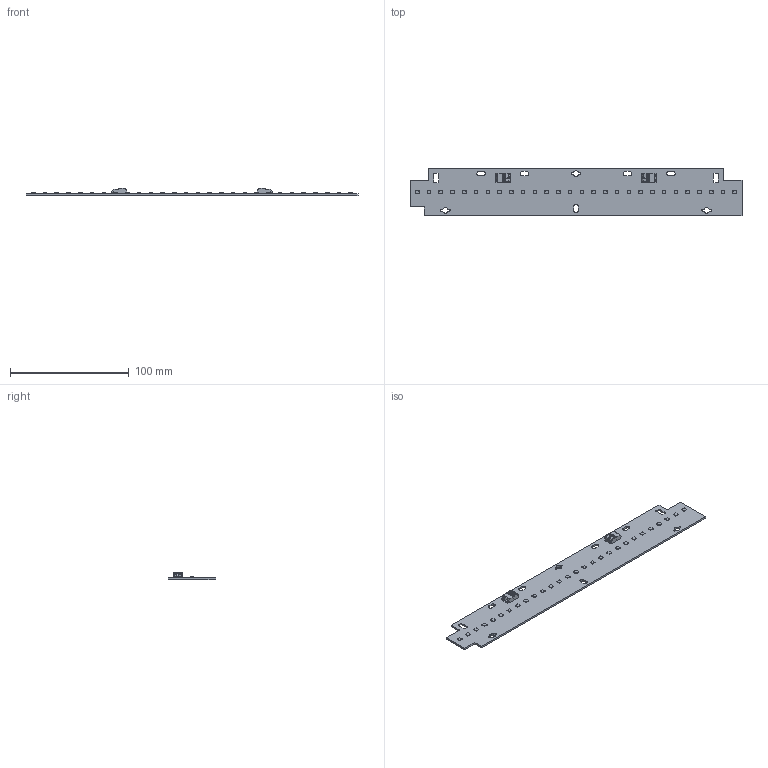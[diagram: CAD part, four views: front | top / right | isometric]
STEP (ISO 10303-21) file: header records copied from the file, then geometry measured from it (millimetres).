
FILE_DESCRIPTION(/* description */ (''),/* implementation_level */ '2;1');
FILE_NAME(/* name */ 'C:\Data\Vault\LE-TPD\9290 029 31800_Fortimo LED Line 1ft HF 1R HV5\Fortimo LED Line 1ft HF 1R HV5 2021-07-19.stp',/* time_stamp */ '2021-07-19T23:03:24+02:00',/* author */ ('plr05507'),/* organization */ (''),/* preprocessor_version */ 'ST-DEVELOPER v16.5',/* originating_system */ 'Autodesk Inventor 2017',/* authorisation */ '');
FILE_SCHEMA (('AUTOMOTIVE_DESIGN { 1 0 10303 214 3 1 1 }'));
Length unit declared in the file: millimetre
Products named in the file (1): 4422-955-40080
Bounding box: 279.7 x 40 x 6.1 mm (x, y, z)
Volume: 17578.3 mm3; surface area: 24029.6 mm2
Topology: 1 solids, 1 shells, 1549 faces, 4133 edges, 2678 vertices
Faces by surface type: plane 998, cylinder 463, cone 84, sphere 4
Full cylindrical faces by diameter (mm): 2.25 x4
Entity records: 49768 total; most frequent: CARTESIAN_POINT 8535, ORIENTED_EDGE 8250, DIRECTION 8235, EDGE_CURVE 4125, LINE 3063, VECTOR 3063, VERTEX_POINT 2674, AXIS2_PLACEMENT_3D 2586
